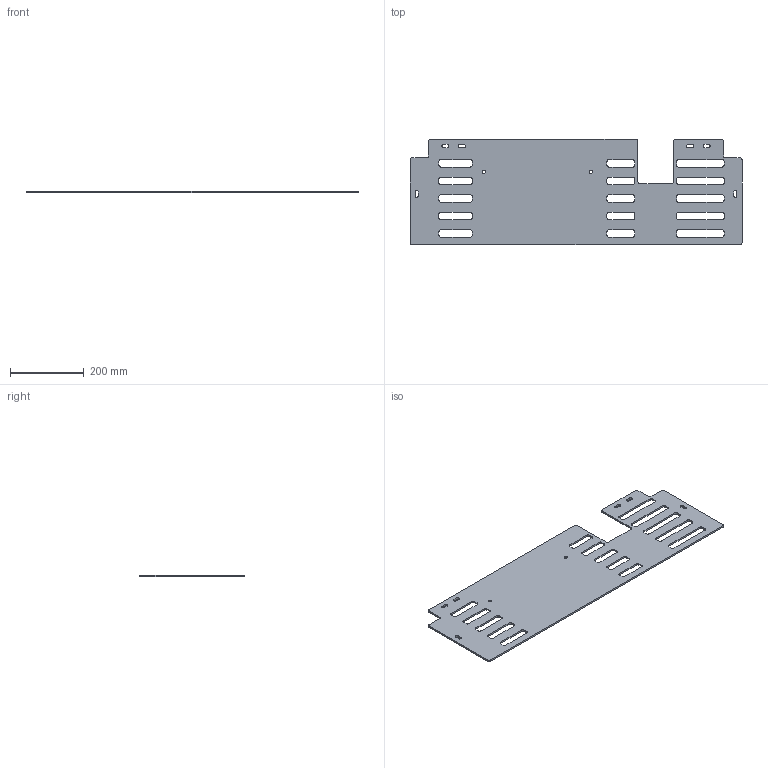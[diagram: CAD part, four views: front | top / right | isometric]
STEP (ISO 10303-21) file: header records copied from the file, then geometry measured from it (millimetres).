
FILE_DESCRIPTION(/* description */ (''),/* implementation_level */ '2;1');
FILE_NAME(/* name */ 'Controller Panel.step',/* time_stamp */ '2026-05-15T13:00:42-07:00',/* author */ (''),/* organization */ (''),/* preprocessor_version */ 'ST-DEVELOPER v20.1',/* originating_system */ 'Autodesk Translation Framework v15.8.0.0',/* authorisation */ '');
FILE_SCHEMA (('AUTOMOTIVE_DESIGN { 1 0 10303 214 3 1 1 }','INTEGRATED_CNC_SCHEMA'));
Length unit declared in the file: millimetre
Products named in the file (1): Controller Panel
Bounding box: 900 x 285 x 4.76 mm (x, y, z)
Volume: 999560.7 mm3; surface area: 449941.5 mm2
Topology: 1 solids, 1 shells, 172 faces, 510 edges, 340 vertices
Faces by surface type: cylinder 86, plane 86
Full cylindrical faces by diameter (mm): 9 x2
Entity records: 5931 total; most frequent: DIRECTION 1028, CARTESIAN_POINT 1023, ORIENTED_EDGE 1020, EDGE_CURVE 510, AXIS2_PLACEMENT_3D 345, VERTEX_POINT 340, LINE 338, VECTOR 338
